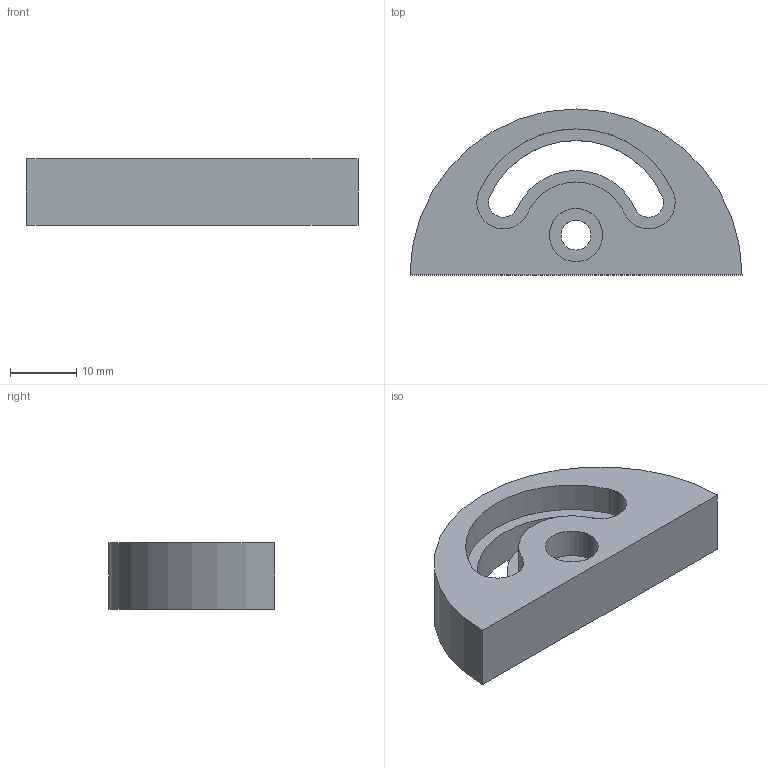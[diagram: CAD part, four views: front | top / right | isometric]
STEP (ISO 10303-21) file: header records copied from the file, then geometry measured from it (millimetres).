
FILE_DESCRIPTION (( 'STEP AP214' ), '1' );
FILE_NAME ('2026_7_2_角度調整ブロック.STEP', '2026-07-10T11:24:39', ( '' ), ( '' ), 'SwSTEP 2.0', 'SolidWorks 2025', '' );
FILE_SCHEMA (( 'AUTOMOTIVE_DESIGN' ));
Length unit declared in the file: millimetre
Products named in the file (1): 2026_7_2_角度調整ブロック
Bounding box: 50 x 25 x 10 mm (x, y, z)
Volume: 7518.2 mm3; surface area: 3869.7 mm2
Topology: 1 solids, 1 shells, 20 faces, 48 edges, 32 vertices
Faces by surface type: cylinder 15, plane 5
Entity records: 809 total; most frequent: DIRECTION 120, CARTESIAN_POINT 101, ORIENTED_EDGE 96, AXIS2_PLACEMENT_3D 51, EDGE_CURVE 48, VERTEX_POINT 32, CIRCLE 30, EDGE_LOOP 26
